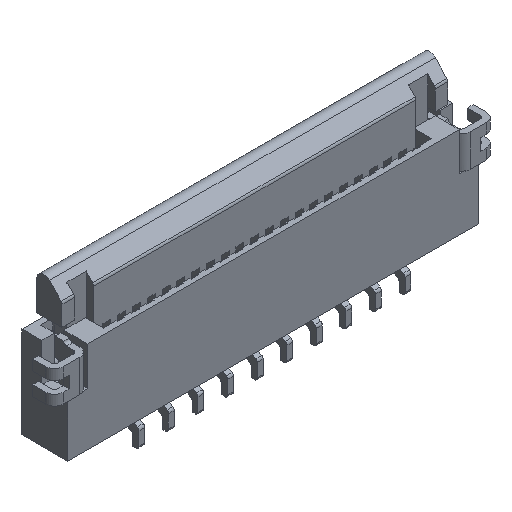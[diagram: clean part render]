
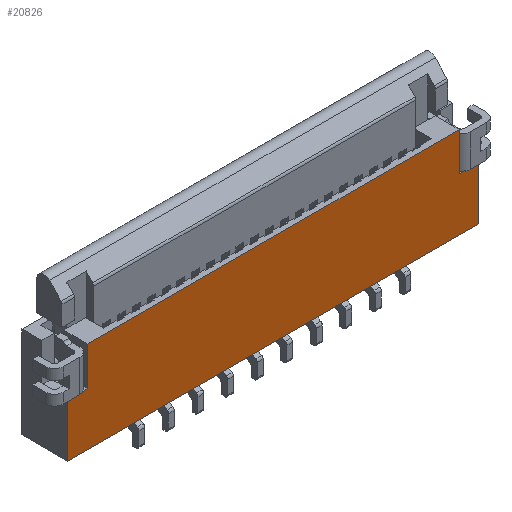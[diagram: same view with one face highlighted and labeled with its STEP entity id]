
A CAD part, isometric view. The second image highlights one B-rep face of the part: STEP entity #20826.
In plain terms, the highlighted planar face has unit normal (0, -1, 0).
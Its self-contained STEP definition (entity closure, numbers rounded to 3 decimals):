
#278=DIRECTION('',(0.,0.,1.));
#279=VECTOR('',#278,1.3);
#280=CARTESIAN_POINT('',(23.28,0.,-1.3));
#281=LINE('',#280,#279);
#519=DIRECTION('',(-1.,0.,0.));
#520=VECTOR('',#519,12.56);
#521=CARTESIAN_POINT('',(23.28,0.,0.));
#522=LINE('',#521,#520);
#663=DIRECTION('',(-1.,0.,0.));
#664=VECTOR('',#663,0.516);
#665=CARTESIAN_POINT('',(23.95,0.,-1.3));
#666=LINE('',#665,#664);
#667=DIRECTION('',(-1.,0.,0.));
#668=VECTOR('',#667,13.9);
#669=CARTESIAN_POINT('',(23.95,0.,-3.1));
#670=LINE('',#669,#668);
#671=DIRECTION('',(1.,0.,0.));
#672=VECTOR('',#671,0.516);
#673=CARTESIAN_POINT('',(10.05,0.,-1.3));
#674=LINE('',#673,#672);
#675=DIRECTION('',(1.,0.,0.));
#676=VECTOR('',#675,0.154);
#677=CARTESIAN_POINT('',(23.28,0.,-1.3));
#678=LINE('',#677,#676);
#703=DIRECTION('',(0.,0.,1.));
#704=VECTOR('',#703,1.8);
#705=CARTESIAN_POINT('',(23.95,0.,-3.1));
#706=LINE('',#705,#704);
#11580=DIRECTION('',(-1.,0.,0.));
#11581=VECTOR('',#11580,0.154);
#11582=CARTESIAN_POINT('',(10.72,0.,-1.3));
#11583=LINE('',#11582,#11581);
#11688=DIRECTION('',(0.,0.,-1.));
#11689=VECTOR('',#11688,1.3);
#11690=CARTESIAN_POINT('',(10.72,0.,0.));
#11691=LINE('',#11690,#11689);
#12164=DIRECTION('',(0.,0.,-1.));
#12165=VECTOR('',#12164,1.8);
#12166=CARTESIAN_POINT('',(10.05,0.,-1.3));
#12167=LINE('',#12166,#12165);
#14826=CARTESIAN_POINT('',(23.95,0.,-3.1));
#14828=VERTEX_POINT('',#14826);
#14981=CARTESIAN_POINT('',(23.28,0.,-1.3));
#14982=CARTESIAN_POINT('',(23.28,0.,0.));
#14983=VERTEX_POINT('',#14981);
#14984=VERTEX_POINT('',#14982);
#14985=CARTESIAN_POINT('',(10.05,0.,-3.1));
#14986=VERTEX_POINT('',#14985);
#15079=CARTESIAN_POINT('',(10.72,0.,0.));
#15080=VERTEX_POINT('',#15079);
#15639=CARTESIAN_POINT('',(10.72,0.,-1.3));
#15641=VERTEX_POINT('',#15639);
#19161=CARTESIAN_POINT('',(10.566,0.,-1.3));
#19163=VERTEX_POINT('',#19161);
#19428=CARTESIAN_POINT('',(10.05,0.,-1.3));
#19430=VERTEX_POINT('',#19428);
#19448=CARTESIAN_POINT('',(23.434,0.,-1.3));
#19449=VERTEX_POINT('',#19448);
#19468=CARTESIAN_POINT('',(23.95,0.,-1.3));
#19470=VERTEX_POINT('',#19468);
#20803=CARTESIAN_POINT('',(17.,0.,-1.55));
#20804=DIRECTION('',(0.,1.,0.));
#20805=DIRECTION('',(0.,0.,1.));
#20806=AXIS2_PLACEMENT_3D('',#20803,#20804,#20805);
#20807=PLANE('',#20806);
#20808=ORIENTED_EDGE('',*,*,#19586,.F.);
#20810=ORIENTED_EDGE('',*,*,#20809,.F.);
#20811=ORIENTED_EDGE('',*,*,#20360,.T.);
#20813=ORIENTED_EDGE('',*,*,#20812,.F.);
#20815=ORIENTED_EDGE('',*,*,#20814,.T.);
#20817=ORIENTED_EDGE('',*,*,#20816,.F.);
#20819=ORIENTED_EDGE('',*,*,#20818,.F.);
#20820=ORIENTED_EDGE('',*,*,#20245,.F.);
#20821=ORIENTED_EDGE('',*,*,#19846,.F.);
#20823=ORIENTED_EDGE('',*,*,#20822,.T.);
#20824=EDGE_LOOP('',(#20808,#20810,#20811,#20813,#20815,#20817,#20819,#20820,
#20821,#20823));
#20825=FACE_OUTER_BOUND('',#20824,.F.);
#19586=EDGE_CURVE('',#19470,#19449,#666,.T.);
#19846=EDGE_CURVE('',#14983,#14984,#281,.T.);
#20245=EDGE_CURVE('',#14984,#15080,#522,.T.);
#20360=EDGE_CURVE('',#14828,#14986,#670,.T.);
#20809=EDGE_CURVE('',#14828,#19470,#706,.T.);
#20812=EDGE_CURVE('',#19430,#14986,#12167,.T.);
#20814=EDGE_CURVE('',#19430,#19163,#674,.T.);
#20816=EDGE_CURVE('',#15641,#19163,#11583,.T.);
#20818=EDGE_CURVE('',#15080,#15641,#11691,.T.);
#20822=EDGE_CURVE('',#14983,#19449,#678,.T.);
#20826=ADVANCED_FACE('',(#20825),#20807,.F.);
